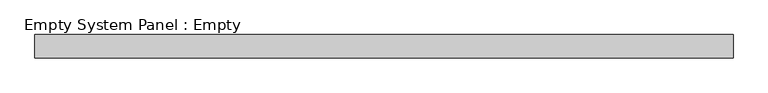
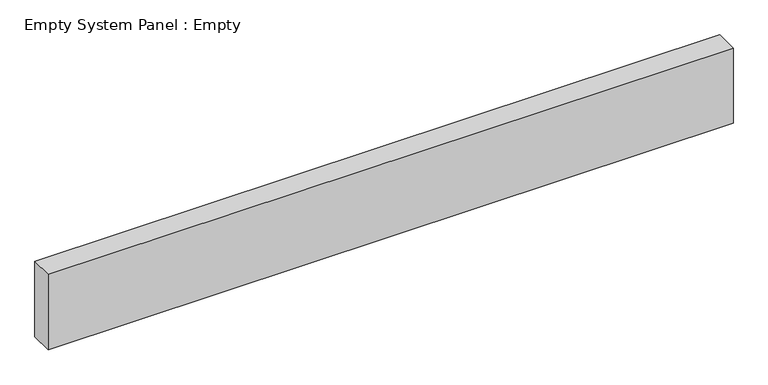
"""IFC4 building model written with IfcOpenShell, lengths in millimetres: plate geometry, Empty System Panel : Empty."""

from ifc_helpers import new_model, si_unit, origin, origin_with_axes, place, context, project, spatial, polyline, outline, extrude, source, transform, mapped, element, save


def empty_system_panel_empty_0e55d925(model_context):
    return source(origin(), model_context, "Body", "SweptSolid", [
        extrude(outline(polyline([(1500.0, -50.0), (-1500.0, -50.0), (-1500.0, 50.0), (1500.0, 50.0), (1500.0, -50.0)])), origin_with_axes(), (0.0, 0.0, 1.0), 349.4365081),
    ])


if __name__ == "__main__":
    model = new_model("IFC4")
    model_context = context("Model", 3, world=origin())
    ifc_project = project(units=[si_unit("LENGTHUNIT", "METRE", prefix="MILLI")], contexts=[model_context])
    site = spatial("IfcSite", under=ifc_project)
    building = spatial("IfcBuilding", under=site)
    placement = place(None, origin())
    empty_system_panel_empty_shape = empty_system_panel_empty_0e55d925(model_context)
    element("IfcPlate", 1, ObjectType="Empty System Panel : Empty", at=placement, inside=building, context=model_context, shape_type="MappedRepresentation", body=[
        mapped(empty_system_panel_empty_shape, transform((0.0, 0.0, 0.0), x_axis=(1.0, 0.0, 0.0), y_axis=(0.0, 1.0, 0.0), z_axis=(0.0, 0.0, 1.0))),
    ])
    save(model, "model.ifc")
